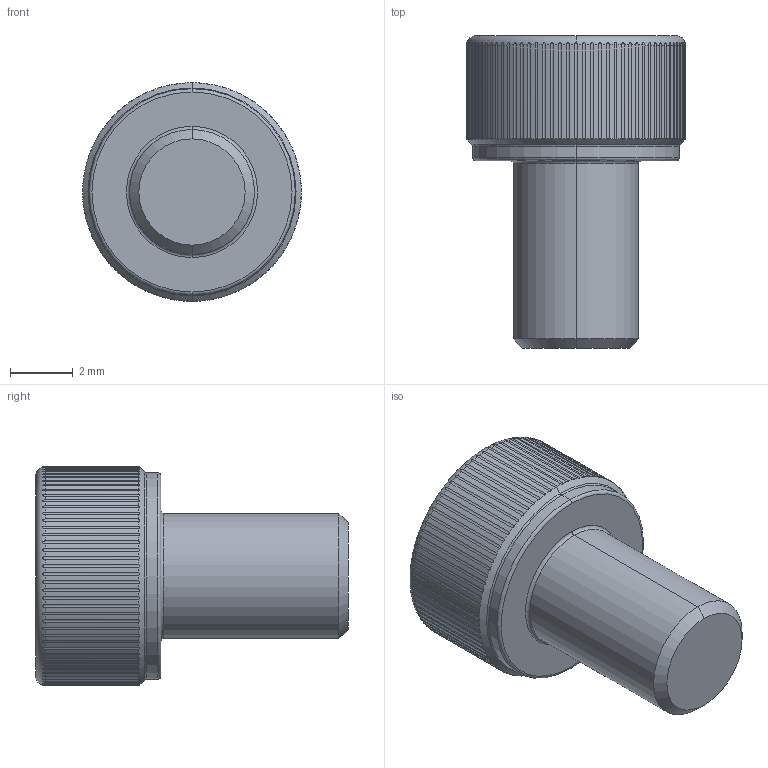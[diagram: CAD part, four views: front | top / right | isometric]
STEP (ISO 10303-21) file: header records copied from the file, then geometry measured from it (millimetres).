
FILE_DESCRIPTION (( 'STEP AP203' ), '1' );
FILE_NAME ('LGDT-304-M4x6.STEP', '2026-08-10T01:15:42', ( '' ), ( '' ), 'SwSTEP 2.0', 'SolidWorks 2020', '' );
FILE_SCHEMA (( 'CONFIG_CONTROL_DESIGN' ));
Length unit declared in the file: millimetre
Products named in the file (1): LGDT-304-M4x6
Bounding box: 7 x 10 x 7 mm (x, y, z)
Volume: 206.1 mm3; surface area: 256.5 mm2
Topology: 1 solids, 1 shells, 216 faces, 612 edges, 400 vertices
Faces by surface type: cylinder 187, cone 11, plane 10, torus 8
Entity records: 10634 total; most frequent: CARTESIAN_POINT 5163, ORIENTED_EDGE 1224, DIRECTION 1048, EDGE_CURVE 612, AXIS2_PLACEMENT_3D 422, VERTEX_POINT 400, EDGE_LOOP 218, ADVANCED_FACE 216
